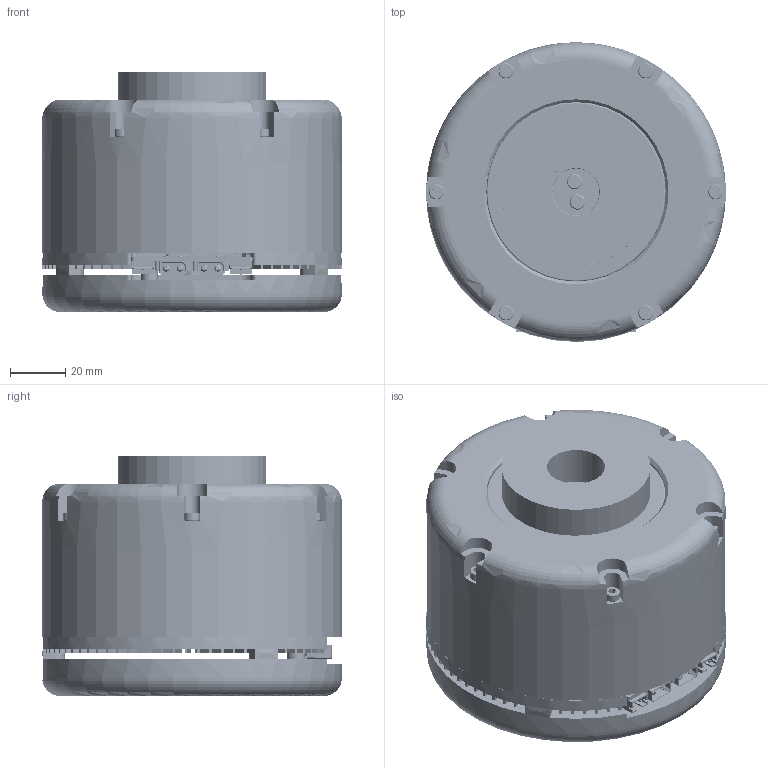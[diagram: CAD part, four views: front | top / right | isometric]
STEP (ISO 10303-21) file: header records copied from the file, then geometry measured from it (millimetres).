
FILE_DESCRIPTION(/* description */ (''),/* implementation_level */ '2;1');
FILE_NAME(/* name */ 'KRC_Actuator.step',/* time_stamp */ '2026-11-12T09:34:45+09:00',/* author */ (''),/* organization */ (''),/* preprocessor_version */ 'ST-DEVELOPER v20.2',/* originating_system */ 'Autodesk Translation Framework v15.17.0.0',/* authorisation */ '');
FILE_SCHEMA (('AUTOMOTIVE_DESIGN { 1 0 10303 214 3 1 1 }'));
Products named in the file (87): 2026-05-20-19-10-40-285; 2026-05-22-16-08-09-669; 2026-07-21-16-58-17-484; 2026-07-21-17-02-40-582; 2026-10-27-17-29-57-278; 2026-05-22-16-08-49-896; 2026-08-12-23-43-25-295; 2026-05-22-18-28-48-176; 2026-07-17-13-54-36-725; 2026-07-21-15-51-27-696; 2026-07-21-16-15-40-817; 2026-07-21-16-15-56-024; 2026-07-21-15-53-05-861; 2026-07-21-15-59-51-429; 2026-07-21-16-00-03-835; 2026-07-21-16-01-04-206; 2026-07-21-16-02-53-685; 2026-07-21-16-05-20-708; 2026-07-21-16-06-22-372; 2026-07-21-16-11-38-798; 2026-07-21-16-13-33-241; 2026-07-21-16-13-36-270; 2026-08-17-16-56-47-253; 2026-08-17-16-56-47-258; 2026-08-17-16-56-47-273; 2026-08-17-16-56-47-338; 2026-08-17-16-56-47-352; 2026-08-17-16-56-47-355; 2026-08-17-16-56-47-362; 2026-08-17-16-56-47-362_1; 2026-08-17-16-56-47-363; 2026-08-17-16-56-47-365; 2026-08-17-16-56-47-366; 2026-08-17-16-56-47-367; 2026-08-17-16-56-47-369; 2026-08-17-16-56-47-370; 2026-08-17-16-56-47-372; 2026-08-17-16-56-47-382; 2026-08-17-16-56-47-383; 2026-08-17-16-56-47-382_1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
Assembly tree (175 placements, depth 7):
  2026-05-20-19-10-40-285
    2026-05-22-16-08-09-669
      2026-07-21-16-58-17-484
      2026-07-21-17-02-40-582
      2026-10-27-17-29-57-278
    2026-05-22-16-08-49-896
      2026-08-12-23-43-25-295
    2026-05-22-18-28-48-176
      2026-07-17-13-54-36-725
      2026-07-21-15-51-27-696
      2026-07-21-16-15-40-817
      2026-07-21-16-15-56-024
    2026-07-21-15-53-05-861
      2026-07-21-15-59-51-429
      2026-07-21-16-00-03-835
      2026-07-21-16-01-04-206
    2026-07-21-16-02-53-685
      2026-07-21-16-05-20-708
      2026-07-21-16-06-22-372
      2026-07-21-16-11-38-798
    2026-07-21-16-13-33-241
    2026-07-21-16-13-36-270
    2026-08-17-16-56-47-253
      2026-08-17-16-56-47-258
      2026-08-17-16-56-47-273
      2026-08-17-16-56-47-338
      2026-08-17-16-56-47-352
      2026-08-17-16-56-47-355
      2026-08-17-16-56-47-362
        2026-08-17-16-56-47-362_1  x3
        2026-08-17-16-56-47-363  x19
        2026-08-17-16-56-47-365  x4
        2026-08-17-16-56-47-366
        2026-08-17-16-56-47-367  x24
        2026-08-17-16-56-47-369
        2026-08-17-16-56-47-370
          2026-08-17-16-56-47-372
        2026-08-17-16-56-47-382
          2026-08-17-16-56-47-383
            2026-08-17-16-56-47-383_2
        2026-08-17-16-56-47-382_1
          2026-08-17-16-56-47-383_1
            2026-08-17-16-56-47-383_2
        2026-08-17-16-56-47-385
          2026-08-17-16-56-47-386
            2026-08-17-16-56-47-386_1
              #731142  x4
            2026-08-17-16-56-47-388
              2026-08-17-16-56-47-388_1  x4
            2026-08-17-16-56-47-389
            2026-08-17-16-56-47-390
            2026-08-17-16-56-47-390_1  x12
        2026-08-17-16-56-47-391
          2026-08-17-16-56-47-392
        2026-08-17-16-56-47-391_1
          2026-08-17-16-56-47-392
        2026-08-17-16-56-47-391_2
          2026-08-17-16-56-47-392
        2026-08-17-16-56-47-391_3
          2026-08-17-16-56-47-392
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Bounding box: 108.6 x 108.6 x 87 mm (x, y, z)
Volume: 533011.3 mm3; surface area: 294704.1 mm2
Topology: 1607 solids, 1607 shells, 27798 faces, 67542 edges, 43248 vertices
Faces by surface type: plane 16164, cylinder 9670, sphere 1428, torus 395, bspline 73, cone 68
Full cylindrical faces by diameter (mm): 0.28 x1965, 0.288 x1, 0.346 x2, 0.35 x2380, 0.39 x2, 0.4 x2, 0.421 x12, 0.65 x4, 0.73 x30, 0.8 x24, 0.85 x4, 0.9 x8, 0.93 x20, 0.946 x10, 1 x16, 1.016 x8, 1.43 x15, 1.5 x16, 1.63 x20, 1.7 x16, 2 x8, 2.5 x19, 2.9 x6, 3 x78, 3.1 x6, 3.2 x20, 3.3 x24, 3.5 x12, 3.8 x2, 4 x2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
Entity records: 731396 total; most frequent: CARTESIAN_POINT 133698, DIRECTION 123090, ORIENTED_EDGE 117484, EDGE_CURVE 58742, LINE 41524, VECTOR 41524, AXIS2_PLACEMENT_3D 40783, VERTEX_POINT 38388
